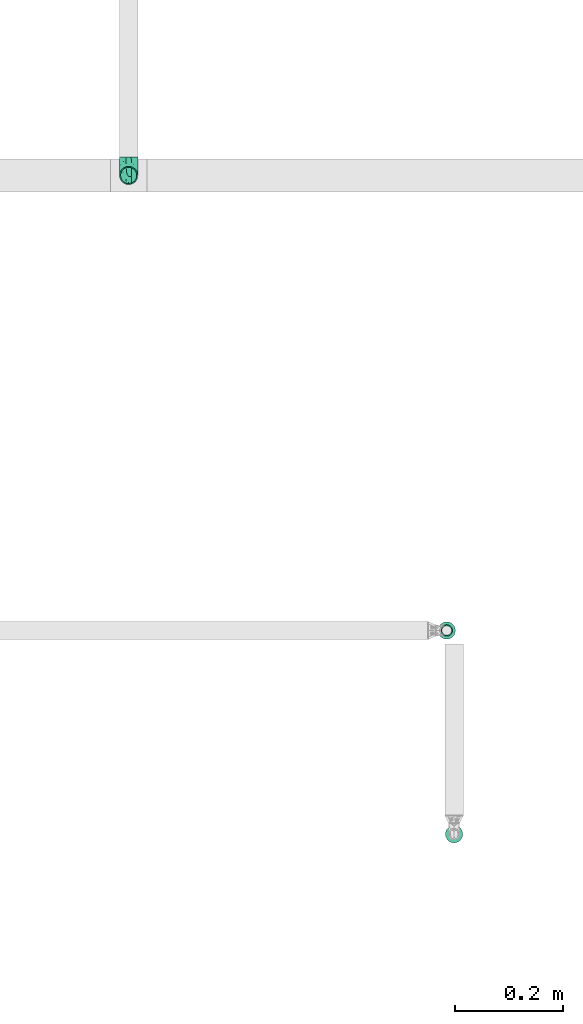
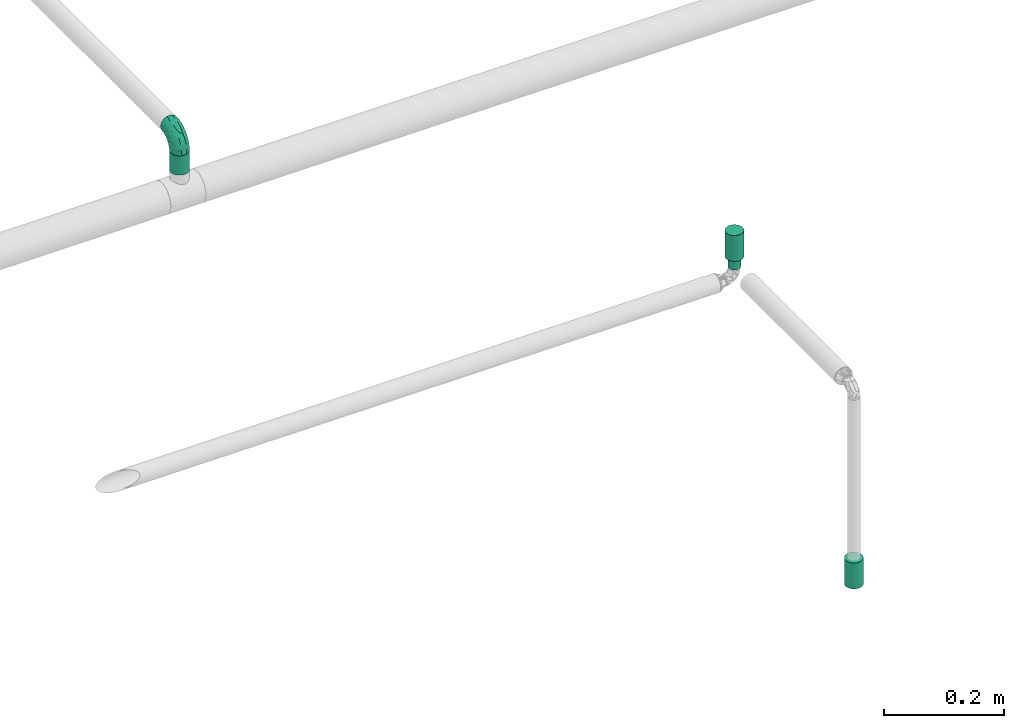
# One storey, part 45 of 51: 2 flow segments, 2 flow terminals, 1 flow fitting.
"""IFC2X3 building model written with IfcOpenShell, lengths in millimetres."""

import ifcopenshell
import ifcopenshell.guid

model = None  # the IFC model being written
_history = None  # IfcOwnerHistory: only IFC2X3 demands one
_inside = {}  # id of a spatial element -> (the spatial element, [elements in it])
_under = {}  # id of a project, library or spatial element -> (it, [spatial elements below it])
_declared = {}  # id of a project -> (the project, [libraries it declares])
_typed = {}  # id of a type object -> (the type object, [elements of that type])
_made_of = {}  # id of a material, layer set ... -> (it, [elements and type objects made of it])


def new_model(schema):
    """Start an empty IFC model of exactly this schema.

    Asked for "IFC4X3", IfcOpenShell would pick the latest addendum, in which some entities
    have other attributes; the version numbers below select the first issue.
    IFC2X3 requires an IfcOwnerHistory on every rooted entity: one is made here for all.
    """
    global model, _history
    if schema == "IFC4X3":
        model = ifcopenshell.file(schema_version=(4, 3, 0, 0))
    else:
        model = ifcopenshell.file(schema=schema)
    _inside.clear()
    _under.clear()
    _declared.clear()
    _typed.clear()
    _made_of.clear()
    _history = None
    if model.schema == "IFC2X3":
        org = make("IfcOrganization", Name="unknown")
        user = make(
            "IfcPersonAndOrganization",
            ThePerson=make("IfcPerson", FamilyName="unknown"),
            TheOrganization=org,
        )
        app = make(
            "IfcApplication",
            ApplicationDeveloper=org,
            Version="unknown",
            ApplicationFullName="unknown",
            ApplicationIdentifier="unknown",
        )
        _history = make(
            "IfcOwnerHistory",
            OwningUser=user,
            OwningApplication=app,
            ChangeAction="ADDED",
            CreationDate=0,
        )
    return model


def make(cls, **values):
    """One entity of the class cls with the attributes given. An attribute that is None is left unset."""
    return model.create_entity(
        cls, **{name: value for name, value in values.items() if value is not None}
    )


def entity(cls, *values):
    """Any entity or typed value of the class cls, its attributes in the order of the schema. None: left unset."""
    e = model.create_entity(cls)
    for i, value in enumerate(values):
        if value is not None:
            e[i] = value
    return e


def rooted(cls, **values):
    """An entity with a GlobalId (a new one), such as an element, a storey or a relation."""
    return make(cls, GlobalId=ifcopenshell.guid.new(), OwnerHistory=_history, **values)


def si_unit(unit_type, name, prefix=None):
    """IfcSIUnit, for example si_unit("LENGTHUNIT", "METRE", prefix="MILLI")."""
    return make("IfcSIUnit", UnitType=unit_type, Prefix=prefix, Name=name)


def converted_unit(unit_type, name, factor, base, dimensions=None, offset=None):
    """IfcConversionBasedUnit, such as the inch: factor (a typed value) times the base unit."""
    return make(
        "IfcConversionBasedUnit"
        if offset is None
        else "IfcConversionBasedUnitWithOffset",
        ConversionOffset=offset,
        Dimensions=None
        if dimensions is None
        else entity("IfcDimensionalExponents", *dimensions),
        UnitType=unit_type,
        Name=name,
        ConversionFactor=make(
            "IfcMeasureWithUnit", ValueComponent=factor, UnitComponent=base
        ),
    )


def derived_unit(unit_type, elements):
    """IfcDerivedUnit: a product of units, each with its exponent."""
    return make(
        "IfcDerivedUnit",
        Elements=[
            make("IfcDerivedUnitElement", Unit=unit, Exponent=power)
            for unit, power in elements
        ],
        UnitType=unit_type,
    )


def assignment(units):
    """IfcUnitAssignment: the units of a project."""
    return None if units is None else make("IfcUnitAssignment", Units=units)


def point(xyz):
    """IfcCartesianPoint."""
    return None if xyz is None else make("IfcCartesianPoint", Coordinates=xyz)


def direction(xyz):
    """IfcDirection."""
    return None if xyz is None else make("IfcDirection", DirectionRatios=xyz)


def frame(location, z_axis=None, x_axis=None):
    """IfcAxis2Placement3D, a coordinate frame: its origin and axes. An axis left out is left unset."""
    return make(
        "IfcAxis2Placement3D",
        Location=point(location),
        Axis=direction(z_axis),
        RefDirection=direction(x_axis),
    )


def frame_2d(location, x_axis=None):
    """IfcAxis2Placement2D, a coordinate frame in the plane: its origin and x axis."""
    return make(
        "IfcAxis2Placement2D", Location=point(location), RefDirection=direction(x_axis)
    )


def origin_with_axes():
    """The frame at (0, 0, 0) with the z axis (0, 0, 1) and the x axis (1, 0, 0) written out."""
    return frame((0.0, 0.0, 0.0), z_axis=(0.0, 0.0, 1.0), x_axis=(1.0, 0.0, 0.0))


def origin_2d_with_axis():
    """The frame at (0, 0) in the plane with the x axis (1, 0) written out."""
    return frame_2d((0.0, 0.0), x_axis=(1.0, 0.0))


def place(relative_to, where):
    """IfcLocalPlacement: puts the frame where relative to a parent placement (None: the world)."""
    return make(
        "IfcLocalPlacement", PlacementRelTo=relative_to, RelativePlacement=where
    )


def context(
    kind, dimensions, precision=None, world=None, true_north=None, identifier=None
):
    """IfcGeometricRepresentationContext, for example the 3D "Model" context."""
    return make(
        "IfcGeometricRepresentationContext",
        ContextIdentifier=identifier,
        ContextType=kind,
        CoordinateSpaceDimension=dimensions,
        Precision=precision,
        WorldCoordinateSystem=world,
        TrueNorth=true_north,
    )


def subcontext(parent, identifier, kind, view, scale=None):
    """IfcGeometricRepresentationSubContext, for example "Body" below "Model"."""
    return make(
        "IfcGeometricRepresentationSubContext",
        ContextIdentifier=identifier,
        ContextType=kind,
        ParentContext=parent,
        TargetScale=scale,
        TargetView=view,
    )


def project(units=None, contexts=None):
    """IfcProject with its units and contexts."""
    return rooted(
        "IfcProject",
        Name="project",
        RepresentationContexts=contexts,
        UnitsInContext=assignment(units),
    )


def spatial(cls, under=None, at=None, **own):
    """A site, building, storey or space (cls), placed at a placement, below another one or the project."""
    s = rooted(cls, ObjectPlacement=at, **own)
    if under is not None:
        _under.setdefault(under.id(), (under, []))[1].append(s)
    return s


def profile(cls, at=None, kind="AREA", **sizes):
    """A parametric profile (cls). Its sizes go by their IFC names, for example OverallWidth=200.0."""
    return make(cls, ProfileType=kind, Position=at, **sizes)


def hollow_circle(**sizes):
    """IfcCircleHollowProfileDef."""
    return profile("IfcCircleHollowProfileDef", **sizes)


def extrude(swept, where, along, depth):
    """IfcExtrudedAreaSolid: the profile swept, set in the frame where, extruded along a direction by depth."""
    return make(
        "IfcExtrudedAreaSolid",
        SweptArea=swept,
        Position=where,
        ExtrudedDirection=direction(along),
        Depth=depth,
    )


def faces_of(points, faces, orient=None, outer=None):
    """IfcFace entities. A face is a list of loops; a loop is a list of indices into points, from 0.

    orient and outer hold one flag for each loop. By default every Orientation is true, the
    first loop of a face is its IfcFaceOuterBound and the others are IfcFaceBound.
    """
    made = []
    for i, loops in enumerate(faces):
        bounds = []
        for j, loop in enumerate(loops):
            is_outer = j == 0 if outer is None else outer[i][j]
            bounds.append(
                make(
                    "IfcFaceOuterBound" if is_outer else "IfcFaceBound",
                    Bound=make("IfcPolyLoop", Polygon=[points[k] for k in loop]),
                    Orientation=True if orient is None else orient[i][j],
                )
            )
        made.append(make("IfcFace", Bounds=bounds))
    return made


def open_shell(faces, orient=None, outer=None):
    """The faces of one IfcOpenShell. surface_model builds it on its shared points."""
    return ("IfcOpenShell", faces, orient, outer)


def surface_model(cls, points, shells):
    """IfcFaceBasedSurfaceModel or IfcShellBasedSurfaceModel (cls): surfaces that need not close."""
    shared = [point(p) for p in points]
    made = [make(c, CfsFaces=faces_of(shared, fs, o, b)) for c, fs, o, b in shells]
    if cls == "IfcFaceBasedSurfaceModel":
        return make(cls, FbsmFaces=made)
    return make(cls, SbsmBoundary=made)


def shape(context_of_items, identifier, shape_type, items):
    """IfcShapeRepresentation: the items that make up one representation, for example the "Body"."""
    return make(
        "IfcShapeRepresentation",
        ContextOfItems=context_of_items,
        RepresentationIdentifier=identifier,
        RepresentationType=shape_type,
        Items=items,
    )


def source(mapping_origin, context_of_items, identifier, shape_type, items):
    """IfcRepresentationMap: a shape defined once, which mapped items show again and again."""
    return make(
        "IfcRepresentationMap",
        MappingOrigin=mapping_origin,
        MappedRepresentation=shape(context_of_items, identifier, shape_type, items),
    )


def transform(
    local_origin,
    x_axis=None,
    y_axis=None,
    z_axis=None,
    scale=None,
    scale2=None,
    scale3=None,
    uniform=True,
):
    """IfcCartesianTransformationOperator3D, or its non-uniform kind. x_axis, y_axis, z_axis: its Axis1, 2, 3."""
    if uniform:
        return make(
            "IfcCartesianTransformationOperator3D",
            Axis1=direction(x_axis),
            Axis2=direction(y_axis),
            LocalOrigin=point(local_origin),
            Scale=scale,
            Axis3=direction(z_axis),
        )
    return make(
        "IfcCartesianTransformationOperator3DnonUniform",
        Axis1=direction(x_axis),
        Axis2=direction(y_axis),
        LocalOrigin=point(local_origin),
        Scale=scale,
        Axis3=direction(z_axis),
        Scale2=scale2,
        Scale3=scale3,
    )


def mapped(mapping_source, mapping_target):
    """IfcMappedItem: shows the shape of a source again, moved by a transform."""
    return make(
        "IfcMappedItem", MappingSource=mapping_source, MappingTarget=mapping_target
    )


def made_of(thing, what):
    """Note that an element or type object is made of a material, layer set ...; save() writes the relation."""
    if what is not None:
        _made_of.setdefault(what.id(), (what, []))[1].append(thing)
    return thing


def type_object(cls, material=None, **own):
    """A type object (cls), such as IfcWallType, which elements share."""
    return made_of(rooted(cls, **own), material)


def element(
    cls,
    number,
    at=None,
    inside=None,
    cuts=None,
    type_object=None,
    material=None,
    context=None,
    identifier="Body",
    shape_type=None,
    held_by="IfcProductDefinitionShape",
    body=None,
    shapes=None,
    **own,
):
    """One element of the class cls, such as IfcWall. Its Tag is "e" and its number.

    at: its placement. inside: the storey or other place that contains it. cuts: it is an
    opening in that element (IfcRelVoidsElement). A single representation is given by context,
    identifier, shape_type and body (its items); several are given by shapes. held_by: the class
    of the entity that holds the representations. save() writes the other relations.
    """
    e = rooted(cls, Tag="e%d" % number, ObjectPlacement=at, **own)
    if body is not None:
        shapes = [shape(context, identifier, shape_type, body)]
    if shapes is not None:
        e.Representation = make(held_by, Representations=shapes)
    if inside is not None:
        _inside.setdefault(inside.id(), (inside, []))[1].append(e)
    if cuts is not None:
        rooted(
            "IfcRelVoidsElement", RelatingBuildingElement=cuts, RelatedOpeningElement=e
        )
    if type_object is not None:
        _typed.setdefault(type_object.id(), (type_object, []))[1].append(e)
    return made_of(e, material)


def aggregate(whole, parts):
    """IfcRelAggregates: a whole, such as a stair, and the parts it consists of."""
    return rooted("IfcRelAggregates", RelatingObject=whole, RelatedObjects=parts)


def save(model, path):
    """Write the relations noted so far, then the file.

    IfcRelAggregates (storeys below a building ...), IfcRelContainedInSpatialStructure (elements
    in a storey), IfcRelDefinesByType, IfcRelAssociatesMaterial and IfcRelDeclares: one each for
    every whole, place, type object, material and project.
    """
    for whole, parts in _under.values():
        aggregate(whole, parts)
    for where, things in _inside.values():
        rooted(
            "IfcRelContainedInSpatialStructure",
            RelatedElements=things,
            RelatingStructure=where,
        )
    for kind, things in _typed.values():
        rooted("IfcRelDefinesByType", RelatedObjects=things, RelatingType=kind)
    for what, things in _made_of.values():
        rooted("IfcRelAssociatesMaterial", RelatedObjects=things, RelatingMaterial=what)
    for by, libraries in _declared.values():
        rooted("IfcRelDeclares", RelatingContext=by, RelatedDefinitions=libraries)
    model.write(path)


model = new_model("IFC2X3")

# Units and contexts
model_context = context("Model", 3, precision=0.01, world=frame((0.0, 4.29681676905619e-09, 0.0)), true_north=direction((4.01073788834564e-13, 1.0)))
plan_context = context("Plan", 3, precision=0.01, world=frame((0.0, 4.29681676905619e-09, 0.0)), true_north=direction((4.01073788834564e-13, 1.0)))
body_context = subcontext(model_context, "Body", "Model", "MODEL_VIEW")
ifc_project = project(units=[converted_unit("PLANEANGLEUNIT", "DEGREE", entity("IfcPositiveLengthMeasure", 0.0174532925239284), si_unit("PLANEANGLEUNIT", "RADIAN"), dimensions=[0, 0, 0, 0, 0, 0, 0]), si_unit("AREAUNIT", "SQUARE_METRE"), si_unit("LENGTHUNIT", "METRE", prefix="MILLI"), si_unit("MASSUNIT", "GRAM", prefix="KILO"), si_unit("POWERUNIT", "WATT"), si_unit("PRESSUREUNIT", "PASCAL"), si_unit("FORCEUNIT", "NEWTON", prefix="KILO"), si_unit("ELECTRICVOLTAGEUNIT", "VOLT"), si_unit("ELECTRICCURRENTUNIT", "AMPERE"), si_unit("THERMODYNAMICTEMPERATUREUNIT", "DEGREE_CELSIUS"), si_unit("TIMEUNIT", "SECOND"), si_unit("VOLUMEUNIT", "CUBIC_METRE"), derived_unit("LINEARVELOCITYUNIT", [(si_unit("LENGTHUNIT", "METRE"), 1), (si_unit("TIMEUNIT", "SECOND"), -1)]), derived_unit("VOLUMETRICFLOWRATEUNIT", [(si_unit("VOLUMEUNIT", "CUBIC_METRE"), 1), (si_unit("TIMEUNIT", "SECOND"), -1)]), derived_unit("THERMALTRANSMITTANCEUNIT", [(si_unit("POWERUNIT", "WATT"), 1), (si_unit("THERMODYNAMICTEMPERATUREUNIT", "KELVIN"), -1), (si_unit("AREAUNIT", "SQUARE_METRE"), -1)]), derived_unit("SOUNDPRESSUREUNIT", [(si_unit("PRESSUREUNIT", "PASCAL"), 1)])], contexts=[model_context, plan_context])

# Site, building, storey
site_placement = place(None, frame((0.0, -4.29681676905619e-09, 0.0), z_axis=(0.0, 0.0, 1.0), x_axis=(1.0, 0.0, 0.0)))
site = spatial("IfcSite", under=ifc_project, at=site_placement, Name="ENGM", CompositionType="ELEMENT")
building_placement = place(site_placement, frame((0.0, 4.29681676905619e-09, 0.0), z_axis=(0.0, 0.0, 1.0), x_axis=(1.0, 0.0, 0.0)))
building = spatial("IfcBuilding", under=site, at=building_placement, Name="TH", CompositionType="ELEMENT")
storey_placement = place(building_placement, frame((0.0, 0.0, 210200.0), z_axis=(0.0, 0.0, 1.0), x_axis=(1.0, 0.0, 0.0)))
storey = spatial("IfcBuildingStorey", under=building, at=storey_placement, Name="Nivå F - 0,7 m", CompositionType="ELEMENT", Elevation=210200.0)

# Flow fitting
pipe_fitting_type = type_object("IfcPipeFittingType", Name="magi_pipe_fe_elbow_short_001", PredefinedType="BEND")
shared_shape_1 = source(origin_with_axes(), body_context, "Body", "SurfaceModel", [
    surface_model("IfcShellBasedSurfaceModel", [(-33.8, 8.45, -14.63583), (-33.8, 4.37404, -16.32415), (-33.8, 11.9501, -11.9501), (-33.8, -11.9501, -11.9501), (-33.8, -14.63583, -8.45), (-33.8, -8.45, -14.63583), (-33.8, 0.0, -16.9), (-33.8, -4.37404, -16.32415), (-33.8, -4.37404, 16.32415), (-33.8, 0.0, 16.9), (-33.8, -8.45, 14.63583), (-33.8, 16.32415, -4.37404), (-33.8, 14.63583, -8.45), (-33.8, -16.32415, -4.37404), (-33.8, -16.9, 0.0), (-33.8, -16.32415, 4.37404), (-33.8, 11.9501, 11.9501), (-33.8, 14.63583, 8.45), (-33.8, 16.32415, 4.37404), (-33.8, 4.37404, 16.32415), (-33.8, 8.45, 14.63583), (-33.8, -14.63583, 8.45), (-33.8, -11.9501, 11.9501), (-33.8, 16.9, 0.0), (-11.9501, 33.8, -11.9501), (0.0, 33.8, -16.9), (-4.37404, 33.8, -16.32415), (-8.45, 33.8, -14.63583), (-14.63583, 33.8, -8.45), (-16.32415, 33.8, -4.37404), (14.63583, 33.8, -8.45), (8.45, 33.8, 14.63583), (16.32415, 33.8, -4.37404), (8.45, 33.8, -14.63583), (11.9501, 33.8, -11.9501), (4.37404, 33.8, -16.32415), (16.32415, 33.8, 4.37404), (16.9, 33.8, 0.0), (-11.9501, 33.8, 11.9501), (-16.32415, 33.8, 4.37404), (-14.63583, 33.8, 8.45), (-8.45, 33.8, 14.63583), (-4.37404, 33.8, 16.32415), (11.9501, 33.8, 11.9501), (14.63583, 33.8, 8.45), (0.0, 33.8, 16.9), (4.37404, 33.8, 16.32415), (-16.9, 33.8, 0.0), (-24.79389, -13.12945, 9.48721), (-22.19287, -9.75018, 12.59315), (-24.09897, -14.97035, 0.0), (-14.93934, -10.76256, 8.5297), (-22.46095, -14.75051, 5.27077), (14.75051, 22.46094, 5.27077), (11.9251, 13.23888, 4.33236), (13.04069, 14.39795, 0.0), (7.71387, 13.68847, 11.55891), (9.75018, 22.19287, 12.59315), (4.10169, 13.0571, 14.04018), (-24.84007, -6.39063, 15.2048), (-25.81779, -2.23879, 16.61097), (-23.66549, 2.59054, 16.87119), (-26.50418, 14.06512, 11.08152), (-24.21253, 17.66365, 7.72657), (-29.58514, 15.86957, 7.00283), (-6.17382, -7.5455, 0.0), (-13.23888, -11.9251, 4.33236), (-14.39795, -13.04069, 0.0), (-17.81434, 18.87373, 11.97104), (-6.30846, 29.15138, 15.82987), (-2.31622, 25.28002, 16.85849), (-29.23923, 10.23435, 13.77053), (-1.45439, -2.85688, 7.61475), (-0.28326, 0.34872, 10.09509), (-5.74484, -4.04709, 10.4122), (-4.41137, 11.31918, 16.59407), (-8.39727, 3.10034, 15.7812), (-1.72649, 9.1306, 15.53089), (-17.39909, 24.75344, 7.64977), (-26.19233, 20.0512, 0.0), (-28.14518, 17.29657, 4.25857), (-26.05147, 6.6281, 15.96447), (-5.87354, 16.61944, 16.86968), (-12.51807, 12.51807, 16.48937), (-10.06312, 7.38516, 16.81295), (-3.01882, 3.01882, 13.81718), (-13.0571, -4.10169, 14.04018), (-16.82553, -0.15166, 16.38038), (10.76256, 14.93934, 8.5297), (13.12945, 24.79389, 9.48721), (6.39063, 24.84007, 15.2048), (2.23879, 25.81779, 16.61097), (-13.68847, -7.71387, 11.55891), (14.97035, 24.09897, 0.0), (-7.30894, 22.89991, 16.09489), (-10.67958, 26.17414, 14.008), (-12.78295, 18.26924, 15.06066), (-13.88562, 22.45231, 12.93244), (-18.04944, 15.16501, 14.04434), (-23.11658, 20.08178, 4.02986), (-21.84989, 21.84989, 0.0), (-18.55817, 25.48277, 3.93065), (-13.95142, 26.94732, 11.03289), (-18.57098, 7.23906, 16.59756), (-16.58335, 4.14122, 16.89279), (-17.96666, 11.46709, 15.63151), (-9.84453, 17.54304, 16.18938), (0.15166, 16.82553, 16.38038), (-23.27207, 11.47201, 14.23154), (3.84842, 5.86994, 10.70473), (-8.0212, -7.54413, 7.93275), (1.00345, -2.19508, 4.57414), (5.13203, 3.01004, 5.90201), (5.24161, 1.7543, 2.53265), (8.70457, 7.04947, 3.99182), (-20.0512, 26.19233, 0.0), (8.4852, 8.76699, 7.09296), (-4.55488, -6.72064, 4.90681), (2.05031, -2.05031, 0.0), (7.5455, 6.17382, 0.0), (-26.75399, 2.1369, -16.845), (-14.61995, 24.73803, -11.27736), (-28.45274, -13.45335, -9.81895), (-26.00469, 6.63555, -15.96645), (-23.06726, 20.04573, -4.26202), (-13.80647, -4.26506, -14.17873), (-14.67501, -0.21081, -16.07388), (-6.7902, -0.2828, -13.8478), (-24.53586, 11.08096, -14.13417), (-26.72048, 14.00837, -11.05776), (10.0967, 24.44989, -12.75976), (5.83237, 21.40218, -15.03047), (6.66249, 28.54238, -15.38093), (-20.38182, 15.48705, -12.74596), (12.53268, 21.23441, -9.15363), (12.54494, 15.67504, -5.54878), (9.7522, 12.89279, -8.66343), (-15.65186, 19.64213, -13.01327), (-12.03528, 20.66498, -14.67665), (-15.61907, 15.61906, -14.83879), (-25.56551, -15.26206, 0.0), (-24.65452, -15.12934, -5.50955), (13.45335, 28.45274, -9.81895), (15.12934, 24.65452, -5.50955), (-7.35442, -8.31014, -5.65563), (-15.67504, -12.54494, -5.54878), (-24.44989, -10.0967, -12.75976), (0.16522, 0.41303, -9.71728), (-5.70658, -5.33066, -8.89288), (-5.13869, -2.37198, -11.53565), (-21.23441, -12.53268, -9.15363), (0.71146, 7.93863, -14.09382), (0.21081, 14.67501, -16.07388), (3.49291, 14.42772, -14.76381), (-24.89911, -2.13088, -16.591), (-28.54238, -6.66249, -15.38093), (-18.44386, -7.71663, -13.26957), (2.13088, 24.89911, -16.591), (-28.64342, 17.44413, -2.89318), (1.70017, -1.28722, -5.09504), (-16.57067, 26.81947, -7.36596), (-17.69055, 27.4263, -3.76405), (-12.89279, -9.7522, -8.66343), (-5.96611, 5.96611, -15.95814), (-20.53709, 20.09345, -8.28985), (-2.1369, 26.75399, -16.845), (-6.89872, 24.58781, -16.02578), (-10.60739, 26.53157, -13.98044), (-21.40218, -5.83237, -15.03047), (2.93192, 5.89627, -11.55917), (6.89393, 12.61842, -11.82233), (5.58056, 5.95325, -8.79455), (-3.99512, 18.61798, -16.89635), (8.31014, 7.35442, -5.65563), (-9.1383, 9.86148, -16.89041), (-9.99983, 16.02119, -16.39699), (-16.68576, 9.78031, -16.34199), (-27.01915, 16.61158, -7.12979), (15.26206, 25.56551, 0.0), (-18.61798, 3.99512, -16.89635), (-19.37495, 27.82495, 0.0), (-12.61842, -6.89393, -11.82233), (-18.84705, 19.14018, -10.96545)], [open_shell([[[0, 1, 2]], [[3, 4, 5]], [[6, 7, 5]], [[8, 9, 10]], [[1, 6, 2]], [[11, 12, 2]], [[4, 2, 6]], [[2, 13, 10]], [[5, 4, 6]], [[2, 4, 13]], [[14, 15, 13]], [[11, 2, 16]], [[11, 17, 18]], [[11, 16, 17]], [[19, 20, 16]], [[16, 2, 10]], [[19, 16, 10]], [[21, 22, 15]], [[22, 13, 15]], [[22, 10, 13]], [[10, 9, 19]], [[11, 18, 23]], [[24, 25, 26]], [[24, 26, 27]], [[24, 28, 29]], [[25, 24, 30]], [[31, 32, 24]], [[33, 30, 34]], [[33, 35, 25]], [[25, 30, 33]], [[32, 30, 24]], [[32, 36, 37]], [[38, 24, 29]], [[39, 40, 29]], [[40, 38, 29]], [[38, 41, 42]], [[38, 31, 24]], [[31, 38, 42]], [[36, 43, 44]], [[36, 32, 43]], [[31, 45, 46]], [[32, 31, 43]], [[42, 45, 31]], [[39, 29, 47]], [[22, 48, 49]], [[15, 14, 50]], [[51, 48, 52]], [[53, 54, 55]], [[48, 22, 21]], [[15, 52, 21]], [[56, 57, 58]], [[49, 10, 22]], [[49, 59, 10]], [[9, 60, 61]], [[62, 63, 64]], [[65, 66, 67]], [[57, 43, 31]], [[62, 68, 63]], [[42, 69, 70]], [[20, 71, 16]], [[8, 60, 9]], [[72, 73, 74]], [[75, 76, 77]], [[16, 62, 17]], [[40, 39, 78]], [[79, 23, 80]], [[64, 18, 17]], [[9, 61, 19]], [[19, 81, 20]], [[82, 83, 84]], [[74, 85, 86]], [[59, 86, 87]], [[88, 89, 57]], [[90, 31, 46]], [[44, 53, 36]], [[46, 45, 91]], [[54, 53, 88]], [[44, 89, 53]], [[92, 86, 49]], [[89, 44, 43]], [[10, 59, 8]], [[53, 55, 93]], [[93, 36, 53]], [[66, 52, 67]], [[94, 82, 70]], [[95, 96, 94]], [[97, 98, 96]], [[79, 99, 100]], [[41, 38, 95]], [[101, 100, 99]], [[68, 78, 63]], [[42, 41, 69]], [[23, 18, 80]], [[95, 94, 69]], [[78, 101, 99]], [[38, 102, 95]], [[70, 45, 42]], [[97, 95, 102]], [[15, 50, 52]], [[90, 57, 31]], [[57, 90, 58]], [[81, 19, 61]], [[103, 104, 84]], [[105, 81, 103]], [[38, 40, 102]], [[106, 96, 83]], [[94, 106, 82]], [[91, 70, 107]], [[71, 62, 16]], [[62, 108, 98]], [[86, 59, 49]], [[67, 52, 50]], [[60, 59, 87]], [[92, 49, 51]], [[86, 85, 76]], [[91, 90, 46]], [[37, 36, 93]], [[107, 77, 58]], [[107, 58, 90]], [[58, 85, 109]], [[110, 74, 92]], [[72, 74, 110]], [[66, 51, 52]], [[72, 111, 112]], [[113, 114, 112]], [[56, 88, 57]], [[52, 48, 21]], [[49, 48, 51]], [[57, 89, 43]], [[53, 89, 88]], [[103, 81, 61]], [[71, 81, 108]], [[18, 64, 80]], [[63, 78, 99]], [[47, 115, 101]], [[101, 115, 100]], [[40, 78, 102]], [[68, 102, 78]], [[97, 96, 95]], [[105, 98, 108]], [[103, 84, 83]], [[107, 70, 82]], [[76, 84, 87]], [[82, 84, 75]], [[70, 91, 45]], [[90, 91, 107]], [[59, 60, 8]], [[61, 60, 87]], [[73, 85, 74]], [[109, 112, 116]], [[103, 61, 104]], [[105, 103, 83]], [[96, 105, 83]], [[81, 105, 108]], [[96, 98, 105]], [[62, 98, 68]], [[61, 87, 104]], [[87, 84, 104]], [[86, 76, 87]], [[77, 76, 85]], [[58, 77, 85]], [[75, 77, 107]], [[82, 75, 107]], [[76, 75, 84]], [[81, 71, 20]], [[62, 71, 108]], [[95, 69, 41]], [[70, 69, 94]], [[62, 64, 17]], [[80, 63, 99]], [[63, 80, 64]], [[80, 99, 79]], [[66, 65, 117]], [[110, 66, 117]], [[112, 114, 116]], [[118, 117, 65]], [[110, 92, 51]], [[112, 111, 113]], [[119, 55, 54]], [[74, 86, 92]], [[58, 109, 56]], [[116, 56, 109]], [[66, 110, 51]], [[72, 110, 117]], [[111, 72, 117]], [[73, 112, 109]], [[117, 118, 111]], [[113, 111, 118]], [[118, 119, 113]], [[114, 119, 54]], [[119, 114, 113]], [[116, 54, 88]], [[54, 116, 114]], [[116, 88, 56]], [[112, 73, 72]], [[85, 73, 109]], [[78, 39, 101]], [[47, 101, 39]], [[102, 68, 97]], [[97, 68, 98]], [[82, 106, 83]], [[94, 96, 106]], [[1, 120, 6]], [[28, 24, 121]], [[3, 122, 4]], [[0, 123, 1]], [[100, 124, 79]], [[125, 126, 127]], [[128, 2, 129]], [[130, 131, 132]], [[128, 129, 133]], [[134, 135, 136]], [[137, 138, 139]], [[128, 0, 2]], [[67, 140, 141]], [[134, 142, 143]], [[141, 13, 4]], [[144, 65, 145]], [[146, 3, 5]], [[147, 148, 149]], [[145, 141, 150]], [[151, 152, 153]], [[154, 7, 6]], [[5, 155, 146]], [[150, 146, 156]], [[155, 5, 7]], [[143, 135, 134]], [[35, 157, 25]], [[23, 79, 158]], [[148, 159, 144]], [[160, 161, 29]], [[145, 162, 144]], [[163, 152, 151]], [[29, 28, 160]], [[121, 164, 160]], [[33, 34, 130]], [[25, 165, 26]], [[26, 165, 166]], [[142, 34, 30]], [[24, 27, 167]], [[124, 161, 164]], [[157, 35, 132]], [[155, 154, 168]], [[123, 0, 128]], [[169, 170, 171]], [[172, 157, 152]], [[26, 166, 27]], [[132, 35, 33]], [[142, 130, 34]], [[168, 154, 126]], [[136, 135, 173]], [[133, 137, 139]], [[2, 12, 129]], [[170, 131, 130]], [[30, 32, 143]], [[172, 174, 175]], [[176, 123, 128]], [[158, 177, 11]], [[135, 55, 119]], [[167, 27, 166]], [[175, 166, 172]], [[137, 167, 138]], [[122, 141, 4]], [[140, 14, 13]], [[32, 37, 178]], [[170, 130, 134]], [[152, 157, 131]], [[165, 157, 172]], [[153, 170, 151]], [[152, 163, 174]], [[168, 125, 156]], [[122, 146, 150]], [[120, 154, 6]], [[179, 174, 126]], [[179, 126, 154]], [[126, 163, 127]], [[162, 145, 150]], [[140, 13, 141]], [[32, 178, 143]], [[55, 143, 178]], [[177, 129, 12]], [[128, 133, 139]], [[176, 128, 139]], [[120, 123, 179]], [[121, 160, 28]], [[161, 100, 180]], [[166, 175, 138]], [[121, 24, 167]], [[161, 47, 29]], [[79, 124, 158]], [[124, 164, 177]], [[161, 124, 100]], [[136, 171, 170]], [[127, 163, 151]], [[147, 171, 159]], [[148, 144, 162]], [[127, 151, 169]], [[127, 181, 125]], [[129, 177, 164]], [[12, 11, 177]], [[159, 65, 144]], [[67, 141, 145]], [[143, 55, 135]], [[135, 119, 173]], [[123, 120, 1]], [[154, 120, 179]], [[157, 165, 25]], [[166, 165, 172]], [[172, 152, 174]], [[176, 139, 175]], [[126, 174, 163]], [[176, 174, 179]], [[174, 176, 175]], [[123, 176, 179]], [[150, 181, 162]], [[127, 149, 181]], [[181, 148, 162]], [[159, 148, 147]], [[171, 136, 173]], [[170, 134, 136]], [[159, 171, 173]], [[171, 147, 169]], [[169, 147, 149]], [[151, 170, 169]], [[164, 182, 129]], [[182, 121, 137]], [[181, 149, 148]], [[169, 149, 127]], [[182, 137, 133]], [[167, 137, 121]], [[166, 138, 167]], [[175, 139, 138]], [[129, 182, 133]], [[121, 182, 164]], [[161, 160, 164]], [[47, 161, 180]], [[177, 158, 124]], [[23, 158, 11]], [[130, 132, 33]], [[157, 132, 131]], [[143, 142, 30]], [[130, 142, 134]], [[154, 155, 7]], [[146, 155, 168]], [[146, 122, 3]], [[141, 122, 150]], [[152, 131, 153]], [[159, 119, 118]], [[67, 145, 65]], [[170, 153, 131]], [[119, 159, 173]], [[159, 118, 65]], [[156, 125, 181]], [[126, 125, 168]], [[150, 156, 181]], [[168, 156, 146]]])]),
])
flow_fitting_placement = place(storey_placement, frame((908499.91443, 487040.10129, 2938.32088000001), z_axis=(-1.0, 0.0, 0.0), x_axis=(0.0, 0.0, 1.0)))
element("IfcFlowFitting", 1, at=flow_fitting_placement, inside=storey, type_object=pipe_fitting_type, Name="magi_pipe_fe_elbow_short_001", context=body_context, shape_type="MappedRepresentation", body=[
    mapped(shared_shape_1, transform((0.0, 0.0, 0.0), scale=1.0)),
])

# Flow segments
pipe_segment_type = type_object("IfcPipeSegmentType", Name="Stålrør normaltykke", PredefinedType="RIGIDSEGMENT")
shared_shape_2 = source(origin_with_axes(), body_context, "Body", "SweptSolid", [
    extrude(hollow_circle(Radius=16.9, WallThickness=2.0, at=origin_2d_with_axis()), frame((0.0, 0.0, 0.0), z_axis=(1.0, 0.0, 0.0), x_axis=(0.0, 1.0, 0.0)), (0.0, 0.0, 1.0), 39.2),
])
flow_segment_1_placement = place(storey_placement, frame((908499.91443, 487040.10129, 2865.29996), z_axis=(0.0, -1.0, 0.0), x_axis=(0.0, 0.0, 1.0)))
element("IfcFlowSegment", 2, at=flow_segment_1_placement, inside=storey, type_object=pipe_segment_type, Name="Stålrør normaltykke", context=body_context, shape_type="MappedRepresentation", body=[
    mapped(shared_shape_2, transform((0.0, 0.0, 0.0), scale=1.0)),
])
shared_shape_3 = source(origin_with_axes(), body_context, "Body", "SweptSolid", [
    extrude(hollow_circle(Radius=10.7, WallThickness=2.0, at=origin_2d_with_axis()), frame((0.0, 0.0, 0.0), z_axis=(1.0, 0.0, 0.0), x_axis=(0.0, 1.0, 0.0)), (0.0, 0.0, 1.0), 24.1),
])
flow_segment_2_placement = place(storey_placement, frame((909086.37306, 486201.02538, 2970.96987999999), z_axis=(0.0, 1.0, 0.0), x_axis=(0.0, 0.0, 1.0)))
element("IfcFlowSegment", 3, at=flow_segment_2_placement, inside=storey, type_object=pipe_segment_type, Name="Stålrør normaltykke", context=body_context, shape_type="MappedRepresentation", body=[
    mapped(shared_shape_3, transform((0.0, 0.0, 0.0), scale=1.0)),
])

# Flow terminals
fire_suppression_terminal_type_1 = type_object("IfcFireSuppressionTerminalType", Name="SP-15-K80-68DGR-STD-HIMLING", PredefinedType="NOTDEFINED")
shared_shape_4 = source(origin_with_axes(), body_context, "Body", "SurfaceModel", [
    surface_model("IfcShellBasedSurfaceModel", [(4.1411, -15.45481, 53.0), (8.0, -13.85641, 53.0), (11.31371, -11.31371, 53.0), (-8.0, -13.85641, 53.0), (15.45481, -4.1411, 53.0), (16.0, 0.0, 53.0), (13.85641, -8.0, 53.0), (0.0, -16.0, 53.0), (-4.1411, -15.45481, 53.0), (-13.85641, -8.0, 53.0), (-11.31371, -11.31371, 53.0), (-15.45481, -4.1411, 53.0), (15.45481, 4.1411, 53.0), (13.85641, 8.0, 53.0), (11.31371, 11.31371, 53.0), (-4.1411, 15.45481, 53.0), (8.0, 13.85641, 53.0), (4.1411, 15.45481, 53.0), (0.0, 16.0, 53.0), (-13.85641, 8.0, 53.0), (-15.45481, 4.1411, 53.0), (-16.0, 0.0, 53.0), (-11.31371, 11.31371, 53.0), (-8.0, 13.85641, 53.0), (0.0, 16.0, 0.0), (4.1411, 15.45481, 0.0), (8.0, 13.85641, 0.0), (-4.1411, 15.45481, 0.0), (11.31371, 11.31371, 0.0), (13.85641, 8.0, 0.0), (15.45481, 4.1411, 0.0), (-15.45481, -4.1411, 0.0), (-11.31371, 11.31371, 0.0), (-8.0, 13.85641, 0.0), (-13.85641, 8.0, 0.0), (-15.45481, 4.1411, 0.0), (-16.0, 0.0, 0.0), (4.1411, -15.45481, 0.0), (16.0, 0.0, 0.0), (15.45481, -4.1411, 0.0), (13.85641, -8.0, 0.0), (11.31371, -11.31371, 0.0), (8.0, -13.85641, 0.0), (-8.0, -13.85641, 0.0), (-13.85641, -8.0, 0.0), (-11.31371, -11.31371, 0.0), (0.0, -16.0, 0.0), (-4.1411, -15.45481, 0.0)], [open_shell([[[0, 1, 2]], [[3, 0, 2]], [[4, 5, 2]], [[4, 2, 6]], [[3, 2, 5]], [[7, 3, 8]], [[7, 0, 3]], [[3, 9, 10]], [[9, 3, 11]], [[5, 11, 3]], [[5, 12, 11]], [[12, 13, 14]], [[15, 12, 14]], [[16, 17, 18]], [[14, 16, 15]], [[18, 15, 16]], [[11, 19, 20]], [[21, 11, 20]], [[22, 15, 23]], [[15, 22, 19]], [[19, 11, 15]], [[11, 12, 15]], [[24, 25, 26]], [[27, 24, 26]], [[28, 29, 30]], [[27, 26, 28]], [[27, 28, 31]], [[27, 32, 33]], [[32, 27, 34]], [[34, 31, 35]], [[31, 34, 27]], [[35, 31, 36]], [[28, 30, 31]], [[37, 38, 39]], [[37, 39, 40]], [[41, 42, 37]], [[41, 37, 40]], [[38, 37, 43]], [[44, 43, 45]], [[43, 44, 31]], [[43, 46, 47]], [[43, 31, 38]], [[37, 46, 43]], [[38, 31, 30]], [[11, 31, 44]], [[45, 9, 44]], [[3, 43, 47]], [[45, 43, 10]], [[8, 47, 46]], [[31, 21, 36]], [[31, 11, 21]], [[44, 9, 11]], [[45, 10, 9]], [[3, 10, 43]], [[47, 8, 3]], [[46, 7, 8]], [[0, 37, 42]], [[41, 1, 42]], [[6, 40, 39]], [[41, 40, 2]], [[4, 39, 38]], [[37, 0, 7]], [[42, 1, 0]], [[41, 2, 1]], [[40, 6, 2]], [[4, 6, 39]], [[38, 5, 4]], [[37, 7, 46]], [[12, 38, 30]], [[13, 30, 29]], [[16, 26, 25]], [[17, 25, 24]], [[30, 13, 12]], [[12, 5, 38]], [[28, 14, 13]], [[28, 26, 14]], [[14, 26, 16]], [[25, 17, 16]], [[28, 13, 29]], [[24, 18, 17]], [[15, 27, 33]], [[32, 23, 33]], [[19, 34, 35]], [[32, 34, 22]], [[20, 35, 36]], [[27, 15, 18]], [[33, 23, 15]], [[32, 22, 23]], [[34, 19, 22]], [[20, 19, 35]], [[36, 21, 20]], [[27, 18, 24]]])]),
])
flow_terminal_1_placement = place(storey_placement, frame((909100.0, 485825.40642, 2600.0), z_axis=(0.0, 0.0, -1.0), x_axis=(-1.0, 0.0, 0.0)))
element("IfcFlowTerminal", 4, at=flow_terminal_1_placement, inside=storey, type_object=fire_suppression_terminal_type_1, Name="SP-15-K80-68DGR-STD-HIMLING", context=body_context, shape_type="MappedRepresentation", body=[
    mapped(shared_shape_4, transform((0.0, 0.0, 0.0), scale=1.0)),
])
fire_suppression_terminal_type_2 = type_object("IfcFireSuppressionTerminalType", Name="SP-15-K80-68DGR-STD-STÅENDE", PredefinedType="NOTDEFINED")
flow_terminal_2_placement = place(storey_placement, frame((909086.37306, 486201.02538, 2992.0), z_axis=(0.0, 0.0, 1.0), x_axis=(1.0, 0.0, 0.0)))
element("IfcFlowTerminal", 5, at=flow_terminal_2_placement, inside=storey, type_object=fire_suppression_terminal_type_2, Name="SP-15-K80-68DGR-STD-STÅENDE", context=body_context, shape_type="MappedRepresentation", body=[
    mapped(shared_shape_4, transform((0.0, 0.0, 0.0), scale=1.0)),
])

save(model, "model.ifc")
